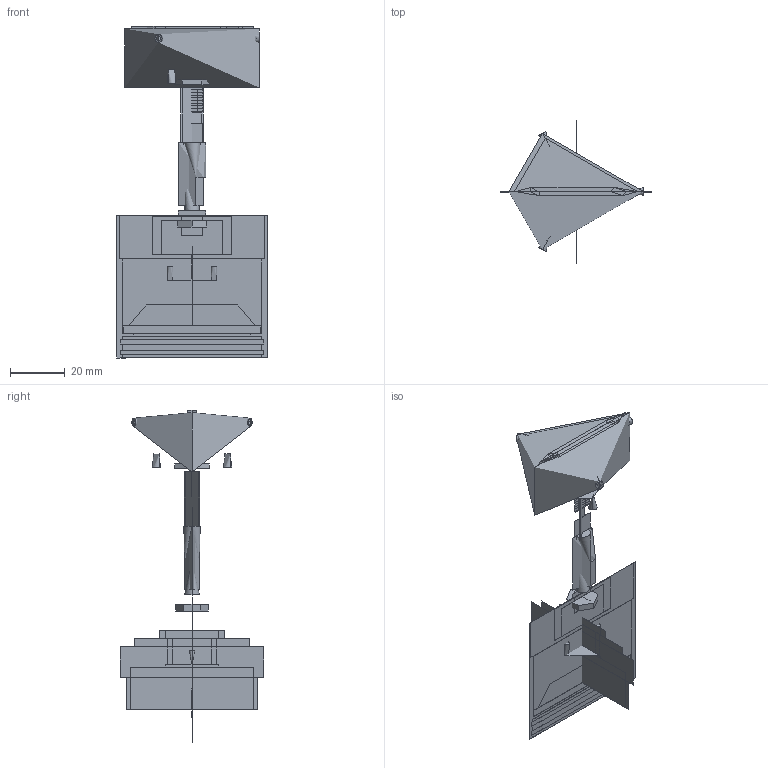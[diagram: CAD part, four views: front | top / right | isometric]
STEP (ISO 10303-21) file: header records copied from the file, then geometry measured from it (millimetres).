
FILE_DESCRIPTION(/* description */ (''),/* implementation_level */ '2;1');
FILE_NAME(/* name */ 'Mark S6',/* time_stamp */ '2025-06-18T18:03:43+02:00',/* author */ (''),/* organization */ (''),/* preprocessor_version */ 'ST-DEVELOPER v15',/* originating_system */ '',/* authorisation */ '');
FILE_SCHEMA (('CONFIG_CONTROL_DESIGN'));
Length unit declared in the file: millimetre
Products named in the file (1): Document
Bounding box: 55 x 52.5 x 121.2 mm (x, y, z)
Volume: 65832.3 mm3; surface area: 56854.7 mm2
Topology: 15 solids, 17 shells, 273 faces, 613 edges, 344 vertices
Faces by surface type: bspline 273
Entity records: 16210 total; most frequent: CARTESIAN_POINT 8678, B_SPLINE_CURVE_WITH_KNOTS 1407, ORIENTED_EDGE 1182, PCURVE 1182, DEFINITIONAL_REPRESENTATION 1182, SURFACE_CURVE 593, EDGE_CURVE 593, VERTEX_POINT 340
